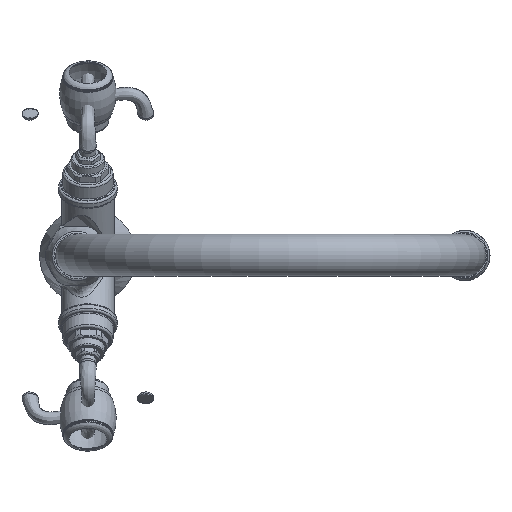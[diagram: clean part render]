
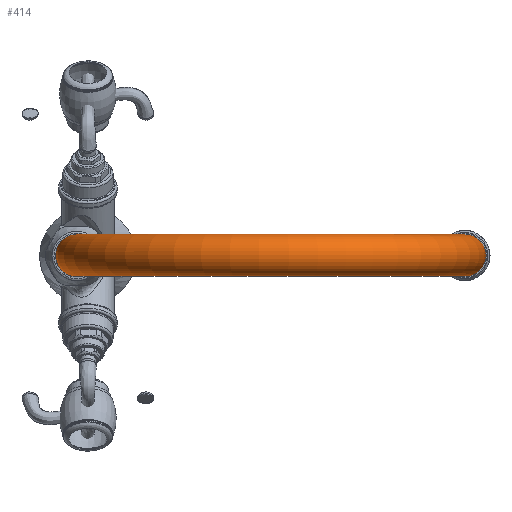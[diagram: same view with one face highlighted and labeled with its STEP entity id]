
A CAD part, top view. The second image highlights one B-rep face of the part: STEP entity #414.
In plain terms, the highlighted toroidal (fillet/blend) face has major radius 92.5 mm and minor radius 10 mm.
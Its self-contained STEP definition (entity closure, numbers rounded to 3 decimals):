
#414=ADVANCED_FACE('',(#3329,#3331),#3333,.T.);
#3329=FACE_OUTER_BOUND('',#3330,.T.);
#3330=EDGE_LOOP('',(#42756));
#3331=FACE_OUTER_BOUND('',#3332,.T.);
#3332=EDGE_LOOP('',(#42757));
#3333=TOROIDAL_SURFACE('',#3334,92.5,10.);
#3334=AXIS2_PLACEMENT_3D('',#3335,#3336,#3337);
#3335=CARTESIAN_POINT('',(87.156,0.,214.5));
#3336=DIRECTION('',(0.,1.,0.));
#3337=DIRECTION('',(-1.,0.,0.));
#42756=ORIENTED_EDGE('',*,*,#43552,.F.);
#42757=ORIENTED_EDGE('',*,*,#43551,.T.);
#43551=EDGE_CURVE('',#44009,#44009,#44010,.T.);
#43552=EDGE_CURVE('',#44011,#44011,#44012,.T.);
#44009=VERTEX_POINT('',#46085);
#44010=CIRCLE('',#46086,10.);
#44011=VERTEX_POINT('',#46090);
#44012=CIRCLE('',#46091,10.);
#46085=CARTESIAN_POINT('',(-5.344,10.,214.5));
#46086=AXIS2_PLACEMENT_3D('',#46087,#46088,#46089);
#46087=CARTESIAN_POINT('',(-5.344,0.,214.5));
#46088=DIRECTION('',(0.,0.,1.));
#46089=DIRECTION('',(0.,1.,0.));
#46090=CARTESIAN_POINT('',(179.656,10.,214.5));
#46091=AXIS2_PLACEMENT_3D('',#46092,#46093,#46094);
#46092=CARTESIAN_POINT('',(179.656,0.,214.5));
#46093=DIRECTION('',(0.,0.,-1.));
#46094=DIRECTION('',(0.,1.,0.));
